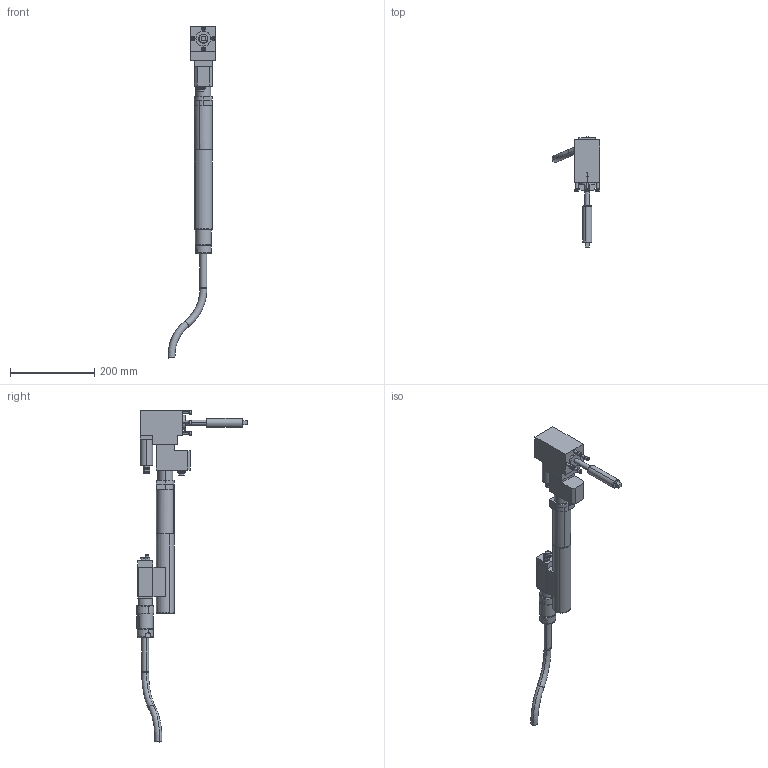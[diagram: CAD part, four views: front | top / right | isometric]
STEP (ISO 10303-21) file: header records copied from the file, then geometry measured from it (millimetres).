
FILE_DESCRIPTION(('CATIA V5 STEP Exchange'),'2;1');
FILE_NAME('O:\3D-Schrauber\Einschauschrauber Groesse1 CATIA V4+V5\7920288_ECR103_DWR35_AWD150-35_AllCATPart.stp','2008-11-06T10:37:03+00:00',('none'),('none'),'CATIA Version 5 Release 16 (IN-10)','CATIA V5 STEP AP203','none');
FILE_SCHEMA(('CONFIG_CONTROL_DESIGN'));
Length unit declared in the file: millimetre
Products named in the file (1): 7920288_ECR103_DWR35_AWD150-35_AllCATPart
Bounding box: 113.82 x 262.23 x 788.16 mm (x, y, z)
Volume: 1543581.1 mm3; surface area: 192134.8 mm2
Topology: 16 solids, 16 shells, 403 faces, 921 edges, 584 vertices
Faces by surface type: plane 180, cylinder 147, cone 44, torus 32
Entity records: 10627 total; most frequent: CARTESIAN_POINT 2136, ORIENTED_EDGE 1822, DIRECTION 1445, EDGE_CURVE 911, AXIS2_PLACEMENT_3D 691, VERTEX_POINT 583, VECTOR 468, LINE 468
